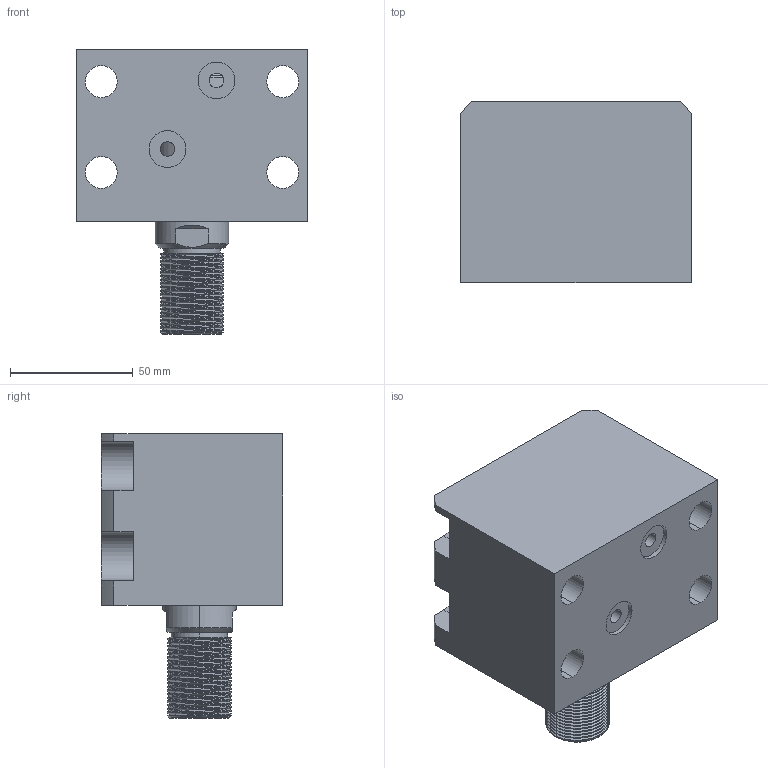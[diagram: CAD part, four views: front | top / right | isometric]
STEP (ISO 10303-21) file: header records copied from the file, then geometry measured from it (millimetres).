
FILE_DESCRIPTION (( 'STEP AP203' ), '1' );
FILE_NAME ('CHTB-LAM50-10W.STEP', '2018-05-23T09:23:59', ( '' ), ( '' ), 'SwSTEP 2.0', 'SolidWorks 2015', '' );
FILE_SCHEMA (( 'CONFIG_CONTROL_DESIGN' ));
Length unit declared in the file: millimetre
Products named in the file (4): 掛极LAM50-10W; CHTM-SDMA50QG; CHTB-LAM50-10W; 活塞杆LAM50-10W
Assembly tree (3 placements, depth 2):
  CHTB-LAM50-10W
    掛极LAM50-10W
    活塞杆LAM50-10W
    CHTM-SDMA50QG
Bounding box: 94 x 74 x 116 mm (x, y, z)
Volume: 442099.8 mm3; surface area: 90977.2 mm2
Topology: 3 solids, 3 shells, 223 faces, 621 edges, 416 vertices
Faces by surface type: cylinder 133, plane 44, bspline 16, torus 16, cone 14
Entity records: 14461 total; most frequent: CARTESIAN_POINT 8816, ORIENTED_EDGE 1234, DIRECTION 963, EDGE_CURVE 617, VERTEX_POINT 416, AXIS2_PLACEMENT_3D 378, EDGE_LOOP 253, ADVANCED_FACE 223
